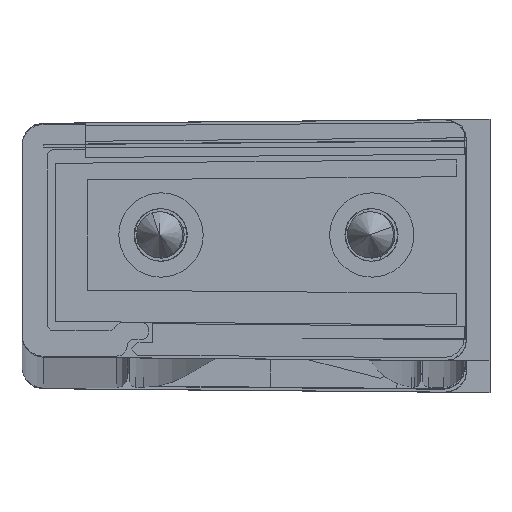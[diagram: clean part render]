
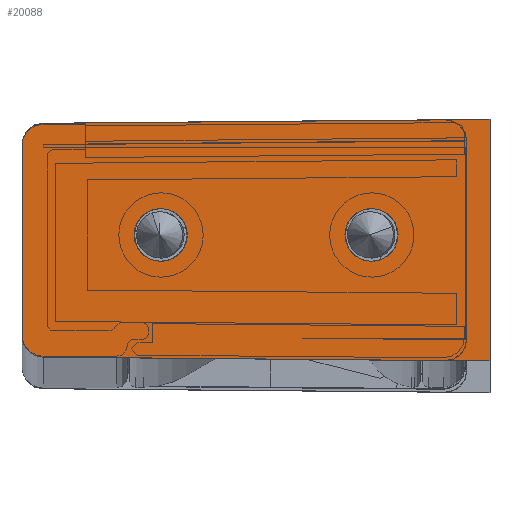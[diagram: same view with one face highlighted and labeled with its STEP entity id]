
A CAD part, top view. The second image highlights one B-rep face of the part: STEP entity #20088.
In plain terms, the highlighted planar face has unit normal (-0.009, 0, 1) as drawn and (0.009, 0, -1) by its records, which use the part's own axes.
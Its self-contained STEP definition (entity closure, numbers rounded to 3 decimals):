
#897 = CARTESIAN_POINT ( 'NONE',  ( 14.033, 4.1, -3.043 ) ) ;
#1281 = DIRECTION ( 'NONE',  ( -0.009, 0., 1. ) ) ;
#2105 = CIRCLE ( 'NONE', #30317, 1.25 ) ;
#2282 = FACE_BOUND ( 'NONE', #6247, .T. ) ;
#2384 = CARTESIAN_POINT ( 'NONE',  ( 4.033, 4.1, -3.131 ) ) ;
#2681 = CIRCLE ( 'NONE', #14144, 1.25 ) ;
#3045 = ORIENTED_EDGE ( 'NONE', *, *, #40803, .T. ) ;
#3210 = DIRECTION ( 'NONE',  ( -0.009, 0., 1. ) ) ;
#4596 = CARTESIAN_POINT ( 'NONE',  ( 19.609, 9.395, -2.995 ) ) ;
#4703 = VERTEX_POINT ( 'NONE', #4596 ) ;
#5958 = LINE ( 'NONE', #28680, #31674 ) ;
#6247 = EDGE_LOOP ( 'NONE', ( #20897, #16985 ) ) ;
#6338 = ORIENTED_EDGE ( 'NONE', *, *, #19643, .T. ) ;
#7546 =( BOUNDED_CURVE ( )  B_SPLINE_CURVE ( 3, ( #10749, #20236, #10966, #20649 ),
 .UNSPECIFIED., .F., .F. ) 
 B_SPLINE_CURVE_WITH_KNOTS ( ( 4, 4 ),
 ( 3.142, 4.704 ),
 .UNSPECIFIED. ) 
 CURVE ( )  GEOMETRIC_REPRESENTATION_ITEM ( )  RATIONAL_B_SPLINE_CURVE ( ( 1., 0.807, 0.807, 1. ) ) 
 REPRESENTATION_ITEM ( '' )  );
#7982 = FACE_OUTER_BOUND ( 'NONE', #9972, .T. ) ;
#8579 = DIRECTION ( 'NONE',  ( -1., -0.009, -0.009 ) ) ;
#8928 = CIRCLE ( 'NONE', #23688, 1.25 ) ;
#9115 = CARTESIAN_POINT ( 'NONE',  ( 2.783, 4.1, -3.142 ) ) ;
#9745 = EDGE_CURVE ( 'NONE', #19905, #23977, #8928, .T. ) ;
#9761 = VERTEX_POINT ( 'NONE', #25752 ) ;
#9877 = CARTESIAN_POINT ( 'NONE',  ( 5.283, 4.1, -3.12 ) ) ;
#9972 = EDGE_LOOP ( 'NONE', ( #27486, #24785, #18646, #40903, #3045, #15214 ) ) ;
#10231 = CARTESIAN_POINT ( 'NONE',  ( 19.609, 9.395, -2.995 ) ) ;
#10749 = CARTESIAN_POINT ( 'NONE',  ( 20.6, -0.695, -2.986 ) ) ;
#10966 = CARTESIAN_POINT ( 'NONE',  ( 20.19, -1.69, -2.99 ) ) ;
#10977 = EDGE_CURVE ( 'NONE', #37016, #9761, #34901, .T. ) ;
#11081 = VERTEX_POINT ( 'NONE', #9877 ) ;
#11558 = DIRECTION ( 'NONE',  ( 0.009, 0., -1. ) ) ;
#13183 = CARTESIAN_POINT ( 'NONE',  ( 20.6, 8.395, -2.986 ) ) ;
#13388 =( BOUNDED_CURVE ( )  B_SPLINE_CURVE ( 3, ( #10231, #35457, #28751, #13183 ),
 .UNSPECIFIED., .F., .F. ) 
 B_SPLINE_CURVE_WITH_KNOTS ( ( 4, 4 ),
 ( 1.58, 3.142 ),
 .UNSPECIFIED. ) 
 CURVE ( )  GEOMETRIC_REPRESENTATION_ITEM ( )  RATIONAL_B_SPLINE_CURVE ( ( 1., 0.807, 0.807, 1. ) ) 
 REPRESENTATION_ITEM ( '' )  );
#13752 = DIRECTION ( 'NONE',  ( 1., 0., 0.009 ) ) ;
#13993 = CARTESIAN_POINT ( 'NONE',  ( 20.6, 8.395, -2.986 ) ) ;
#14144 = AXIS2_PLACEMENT_3D ( 'NONE', #32800, #39282, #16600 ) ;
#14701 = LINE ( 'NONE', #24372, #35626 ) ;
#14724 = CARTESIAN_POINT ( 'NONE',  ( 19., 0., -3. ) ) ;
#15142 = DIRECTION ( 'NONE',  ( 0., -1., 0. ) ) ;
#15214 = ORIENTED_EDGE ( 'NONE', *, *, #23179, .T. ) ;
#15852 = DIRECTION ( 'NONE',  ( 1., 0., 0.009 ) ) ;
#16076 = DIRECTION ( 'NONE',  ( -0.009, 0., 1. ) ) ;
#16600 = DIRECTION ( 'NONE',  ( 1., 0., 0.009 ) ) ;
#16879 = CARTESIAN_POINT ( 'NONE',  ( 14.033, 4.1, -3.043 ) ) ;
#16943 = VECTOR ( 'NONE', #18326, 1000. ) ;
#16985 = ORIENTED_EDGE ( 'NONE', *, *, #40719, .T. ) ;
#17036 = CARTESIAN_POINT ( 'NONE',  ( 12.783, 4.1, -3.054 ) ) ;
#17508 = DIRECTION ( 'NONE',  ( 1., 0., 0.009 ) ) ;
#18326 = DIRECTION ( 'NONE',  ( 0., 1., 0. ) ) ;
#18561 = CARTESIAN_POINT ( 'NONE',  ( 20.6, 9.4, -2.986 ) ) ;
#18646 = ORIENTED_EDGE ( 'NONE', *, *, #36514, .T. ) ;
#19643 = EDGE_CURVE ( 'NONE', #23977, #19905, #33495, .T. ) ;
#19905 = VERTEX_POINT ( 'NONE', #17036 ) ;
#20088 = ADVANCED_FACE ( 'NONE', ( #2282, #27757, #7982 ), #36993, .T. ) ;
#20089 = AXIS2_PLACEMENT_3D ( 'NONE', #16879, #1281, #17508 ) ;
#20236 = CARTESIAN_POINT ( 'NONE',  ( 20.6, -1.276, -2.986 ) ) ;
#20649 = CARTESIAN_POINT ( 'NONE',  ( 19.609, -1.695, -2.995 ) ) ;
#20897 = ORIENTED_EDGE ( 'NONE', *, *, #36419, .T. ) ;
#21452 = EDGE_LOOP ( 'NONE', ( #6338, #35609 ) ) ;
#21733 = CARTESIAN_POINT ( 'NONE',  ( 15.283, 4.1, -3.032 ) ) ;
#22065 = CARTESIAN_POINT ( 'NONE',  ( 19.609, -1.695, -2.995 ) ) ;
#23179 = EDGE_CURVE ( 'NONE', #4703, #40371, #13388, .T. ) ;
#23688 = AXIS2_PLACEMENT_3D ( 'NONE', #897, #16076, #13752 ) ;
#23977 = VERTEX_POINT ( 'NONE', #21733 ) ;
#24372 = CARTESIAN_POINT ( 'NONE',  ( 19.126, -1.699, -2.999 ) ) ;
#24785 = ORIENTED_EDGE ( 'NONE', *, *, #31135, .T. ) ;
#24827 = VERTEX_POINT ( 'NONE', #24956 ) ;
#24956 = CARTESIAN_POINT ( 'NONE',  ( 20.6, -0.695, -2.986 ) ) ;
#25752 = CARTESIAN_POINT ( 'NONE',  ( -1.6, 9.58, -3.18 ) ) ;
#27192 = DIRECTION ( 'NONE',  ( 0., -1., 0. ) ) ;
#27486 = ORIENTED_EDGE ( 'NONE', *, *, #37037, .T. ) ;
#27757 = FACE_BOUND ( 'NONE', #21452, .T. ) ;
#28165 = AXIS2_PLACEMENT_3D ( 'NONE', #14724, #11558, #15142 ) ;
#28680 = CARTESIAN_POINT ( 'NONE',  ( 19.126, 9.399, -2.999 ) ) ;
#28751 = CARTESIAN_POINT ( 'NONE',  ( 20.6, 8.976, -2.986 ) ) ;
#30317 = AXIS2_PLACEMENT_3D ( 'NONE', #2384, #3210, #15852 ) ;
#30933 = CARTESIAN_POINT ( 'NONE',  ( -1.6, -1.7, -3.18 ) ) ;
#31135 = EDGE_CURVE ( 'NONE', #24827, #32706, #7546, .T. ) ;
#31189 = CARTESIAN_POINT ( 'NONE',  ( -1.6, -1.88, -3.18 ) ) ;
#31674 = VECTOR ( 'NONE', #37731, 1000. ) ;
#32346 = VERTEX_POINT ( 'NONE', #9115 ) ;
#32706 = VERTEX_POINT ( 'NONE', #22065 ) ;
#32800 = CARTESIAN_POINT ( 'NONE',  ( 4.033, 4.1, -3.131 ) ) ;
#32956 = VECTOR ( 'NONE', #27192, 1000. ) ;
#33495 = CIRCLE ( 'NONE', #20089, 1.25 ) ;
#34901 = LINE ( 'NONE', #30933, #16943 ) ;
#35457 = CARTESIAN_POINT ( 'NONE',  ( 20.19, 9.39, -2.99 ) ) ;
#35609 = ORIENTED_EDGE ( 'NONE', *, *, #9745, .T. ) ;
#35626 = VECTOR ( 'NONE', #8579, 1000. ) ;
#36419 = EDGE_CURVE ( 'NONE', #11081, #32346, #2681, .T. ) ;
#36514 = EDGE_CURVE ( 'NONE', #32706, #37016, #14701, .T. ) ;
#36993 = PLANE ( 'NONE',  #28165 ) ;
#37016 = VERTEX_POINT ( 'NONE', #31189 ) ;
#37037 = EDGE_CURVE ( 'NONE', #40371, #24827, #37479, .T. ) ;
#37479 = LINE ( 'NONE', #18561, #32956 ) ;
#37731 = DIRECTION ( 'NONE',  ( 1., -0.009, 0.009 ) ) ;
#39282 = DIRECTION ( 'NONE',  ( -0.009, 0., 1. ) ) ;
#40371 = VERTEX_POINT ( 'NONE', #13993 ) ;
#40719 = EDGE_CURVE ( 'NONE', #32346, #11081, #2105, .T. ) ;
#40803 = EDGE_CURVE ( 'NONE', #9761, #4703, #5958, .T. ) ;
#40903 = ORIENTED_EDGE ( 'NONE', *, *, #10977, .T. ) ;
